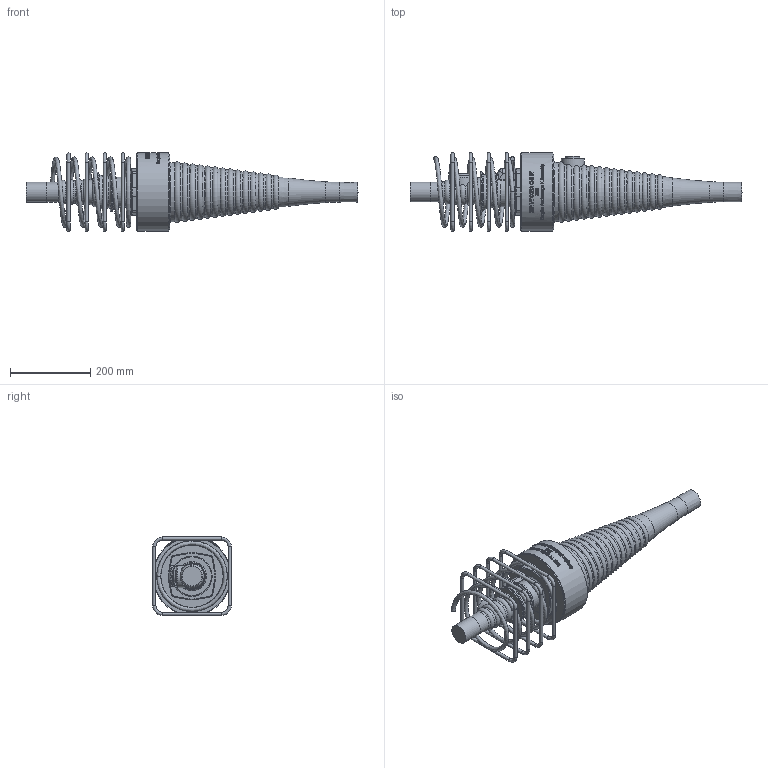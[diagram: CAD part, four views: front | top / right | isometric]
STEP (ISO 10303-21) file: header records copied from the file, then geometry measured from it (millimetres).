
FILE_DESCRIPTION(/* description */ (''),/* implementation_level */ '2;1');
FILE_NAME(/* name */ 'BBR VT CONA CMI BT 306_Coupler K Assembly_CS-34,28.stp',/* time_stamp */ '2025-04-29T14:57:25+02:00',/* author */ ('tk'),/* organization */ (''),/* preprocessor_version */ 'ST-DEVELOPER v20',/* originating_system */ 'Autodesk Inventor 2024',/* authorisation */ '');
FILE_SCHEMA (('AUTOMOTIVE_DESIGN { 1 0 10303 214 3 1 1 }'));
Products named in the file (1): BBR VT CONA CMI BT 306_Coupler K Assembly_CS-34,28
Bounding box: 825.07 x 195 x 196 mm (x, y, z)
Volume: 7399101.7 mm3; surface area: 519592.8 mm2
Topology: 7 solids, 7 shells, 962 faces, 2520 edges, 1627 vertices
Faces by surface type: bspline 441, plane 266, cylinder 113, torus 100, cone 30, sphere 12
Full cylindrical faces by diameter (mm): 8 x16, 32 x1, 34.158 x1, 49 x1, 55 x1, 57 x1, 95 x1, 100 x1, 192 x1, 195 x1
Entity records: 43574 total; most frequent: CARTESIAN_POINT 21390, ORIENTED_EDGE 5028, DIRECTION 3321, EDGE_CURVE 2514, VERTEX_POINT 1627, AXIS2_PLACEMENT_3D 1181, EDGE_LOOP 1031, STYLED_ITEM 969
